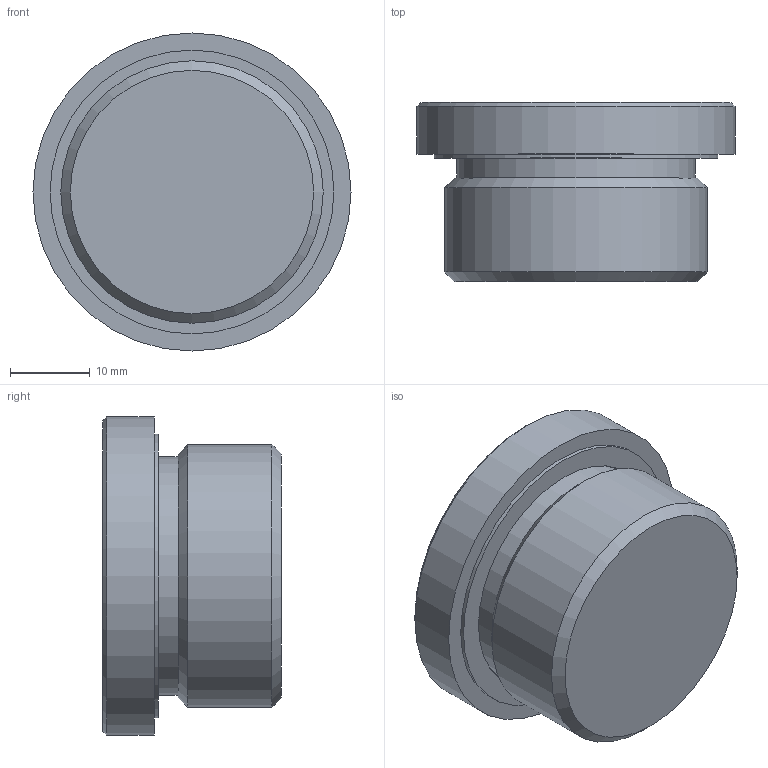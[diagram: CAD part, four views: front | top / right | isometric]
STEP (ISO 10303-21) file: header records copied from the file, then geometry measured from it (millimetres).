
FILE_DESCRIPTION( ( 'STEP AP203' ), '1' );
FILE_NAME( 'C:/Temp/Ganter_Step_05_03_2020/data/3_5/gn749/gn749_a/Threaded plug GN 749-M33x2-A.stp', '2020-03-12T13:41:36', ( 'License CC BY-ND 4.0' ), ( 'CADENAS' ), ' ', 'PARTsolutions', ' ' );
FILE_SCHEMA( ( 'CONFIG_CONTROL_DESIGN' ) );
Length unit declared in the file: millimetre
Products named in the file (1): _Threaded plug GN 749-M33x2-A
Bounding box: 40 x 22.5 x 40 mm (x, y, z)
Volume: 18881.1 mm3; surface area: 5763.6 mm2
Topology: 1 solids, 1 shells, 21 faces, 41 edges, 27 vertices
Faces by surface type: plane 13, cylinder 5, cone 3
Full cylindrical faces by diameter (mm): 30 x1, 30.4 x1, 33 x1, 35.7 x1, 40 x1
Entity records: 526 total; most frequent: DIRECTION 88, CARTESIAN_POINT 78, ORIENTED_EDGE 62, AXIS2_PLACEMENT_3D 35, EDGE_LOOP 34, EDGE_CURVE 31, FACE_OUTER_BOUND 26, VERTEX_POINT 25
